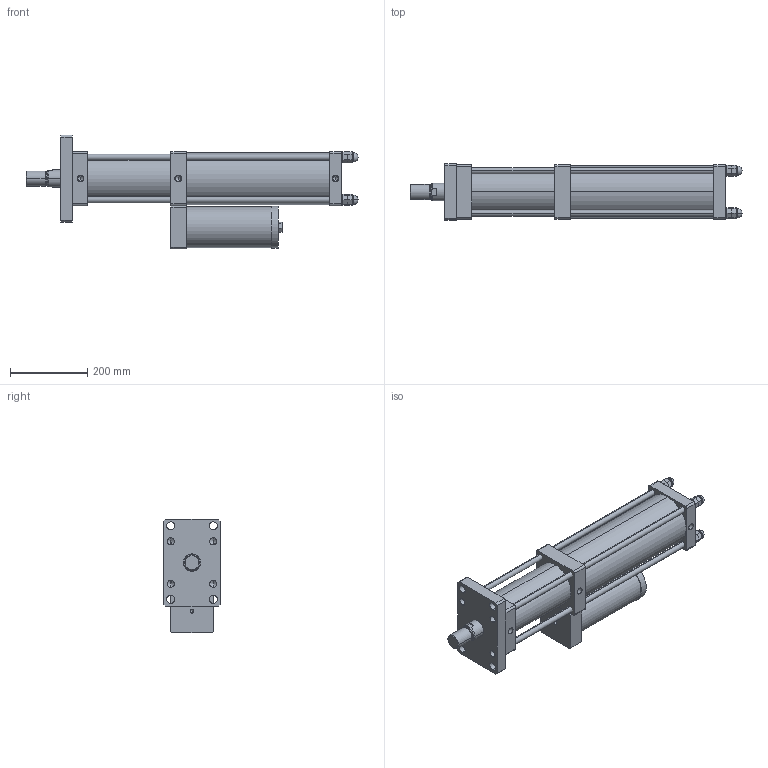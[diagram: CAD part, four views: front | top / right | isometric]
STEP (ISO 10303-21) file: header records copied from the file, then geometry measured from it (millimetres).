
FILE_DESCRIPTION (( 'STEP AP203' ), '1' );
FILE_NAME ('MPT-100-50-20-13T.STEP', '2016-03-11T05:46:12', ( 'WIN' ), ( '' ), 'SwSTEP 2.0', 'SolidWorks 2014', '' );
FILE_SCHEMA (( 'CONFIG_CONTROL_DESIGN' ));
Length unit declared in the file: millimetre
Products named in the file (1): MPT-100-50-20-13T
Bounding box: 859 x 145 x 294.5 mm (x, y, z)
Volume: 13781721.7 mm3; surface area: 828322.4 mm2
Topology: 13 solids, 13 shells, 400 faces, 980 edges, 555 vertices
Faces by surface type: plane 188, cylinder 80, torus 48, bspline 48, cone 36
Entity records: 12751 total; most frequent: CARTESIAN_POINT 3688, DIRECTION 1936, ORIENTED_EDGE 1812, EDGE_CURVE 906, AXIS2_PLACEMENT_3D 727, VERTEX_POINT 555, VECTOR 482, LINE 482
